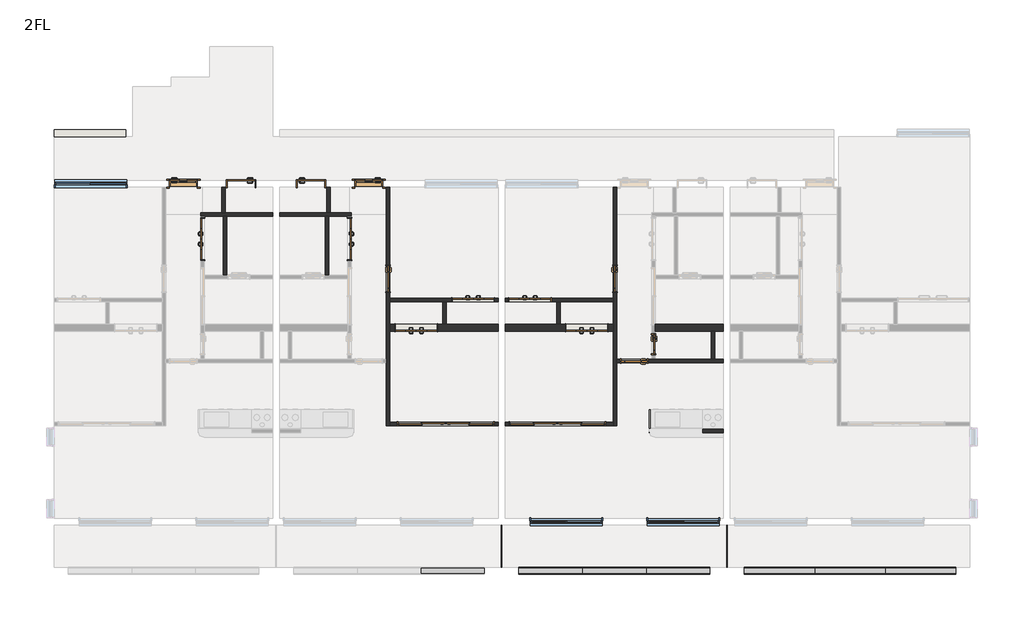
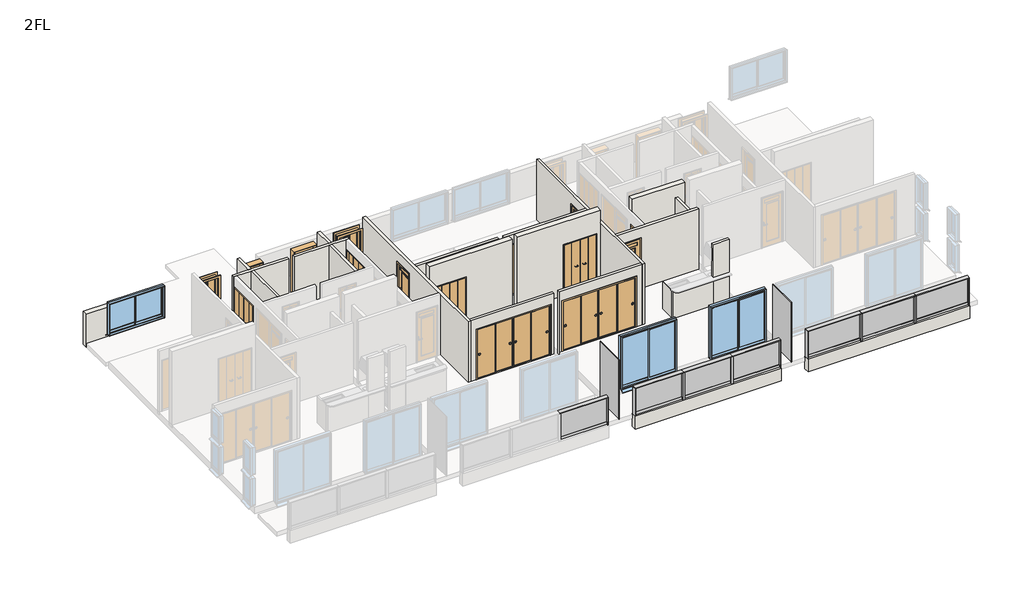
# One storey, part 2 of 3: 25 walls, 16 doors, 16 members, 9 plates, 3 windows.
"""IFC4 building model written with IfcOpenShell, lengths in millimetres."""

from ifc_helpers import new_model, si_unit, frame, origin, place, context, project, spatial, polyline, outline, extrude, faceted_brep, transform, mapped, element, save
from components import door_800x2000_a7d1584b, door_800x2000_010bfebf, w1200h2000_6a144d60, w1200h2000_98cacc9b, w1200h2000_99d19fb3, w1200h2000_ebe1d490, w2800h2000_670b855b, w2800h2000_04aa64cd, w600h2000_7f2747f4, w800h2000_1d97c4d4, w800h2000_13e9f519, w800h2000_ccb03061, w800h2000_0ab7d42c, member_25x150_3f8205e2, member_25x150_f694351b, member_25x150_e95393f9, member_70x150_851c8a9b, plate_9f48129f, plate_365944b3, plate_b830f844, plate_2f85ae4c, plate_cef4847d, window_2000x1200_fc91d1cf, window_2000x2000_f1ff98da

model = new_model("IFC4")

# Units and contexts
model_context = context("Model", 3, world=origin())
ifc_project = project(units=[si_unit("LENGTHUNIT", "METRE", prefix="MILLI")], contexts=[model_context])

# Site, building, storey
site = spatial("IfcSite", under=ifc_project)
building = spatial("IfcBuilding", under=site)
storey = spatial("IfcBuildingStorey", under=building, Name="2FL", Elevation=4000.0)

# Doors
placement = place(None, origin())
door_800x2000_shape = door_800x2000_a7d1584b(model_context)
element("IfcDoor", 1, ObjectType="片開き3 : 800x2000", at=placement, inside=storey, context=model_context, shape_type="MappedRepresentation", body=[
    mapped(door_800x2000_shape, transform((-7378.7187246, -5700.1171638, 4000.0), x_axis=(1.0, 0.0, 0.0), y_axis=(0.0, 1.0, 0.0), z_axis=(0.0, 0.0, 1.0))),
])
door_800x2000_2_shape = door_800x2000_010bfebf(model_context)
element("IfcDoor", 2, ObjectType="片開き3 : 800x2000", at=placement, inside=storey, context=model_context, shape_type="MappedRepresentation", body=[
    mapped(door_800x2000_2_shape, transform((-2078.7187246, -5700.1171638, 4000.0), x_axis=(-1.0, 0.0, 0.0), y_axis=(0.0, -1.0, 0.0), z_axis=(0.0, 0.0, 1.0))),
])
w1200h2000_shape = w1200h2000_6a144d60(model_context)
element("IfcDoor", 3, ObjectType="木製折戸 : w1200h2000", at=placement, inside=storey, context=model_context, shape_type="MappedRepresentation", body=[
    mapped(w1200h2000_shape, transform((-6828.7187246, -7280.1171638, 4100.0), x_axis=(0.0, 1.0, 0.0), y_axis=(-1.0, 0.0, 0.0), z_axis=(0.0, 0.0, 1.0))),
])
element("IfcDoor", 4, ObjectType="木製折戸 : w1200h2000", at=placement, inside=storey, context=model_context, shape_type="MappedRepresentation", body=[
    mapped(w1200h2000_shape, transform((2533.7812754, -9020.1171638, 4100.0), x_axis=(1.0, 0.0, 0.0), y_axis=(0.0, 1.0, 0.0), z_axis=(0.0, 0.0, 1.0))),
])
w1200h2000_2_shape = w1200h2000_98cacc9b(model_context)
element("IfcDoor", 5, ObjectType="木製折戸 : w1200h2000", at=placement, inside=storey, context=model_context, shape_type="MappedRepresentation", body=[
    mapped(w1200h2000_2_shape, transform((4158.7812754, -9820.1171638, 4100.0), x_axis=(-1.0, 0.0, 0.0), y_axis=(0.0, -1.0, 0.0), z_axis=(0.0, 0.0, 1.0))),
])
w1200h2000_3_shape = w1200h2000_99d19fb3(model_context)
element("IfcDoor", 6, ObjectType="木製折戸 : w1200h2000", at=placement, inside=storey, context=model_context, shape_type="MappedRepresentation", body=[
    mapped(w1200h2000_3_shape, transform((908.7812754, -9020.1171638, 4100.0), x_axis=(-1.0, 0.0, 0.0), y_axis=(0.0, -1.0, 0.0), z_axis=(0.0, 0.0, 1.0))),
])
element("IfcDoor", 7, ObjectType="木製折戸 : w1200h2000", at=placement, inside=storey, context=model_context, shape_type="MappedRepresentation", body=[
    mapped(w1200h2000_3_shape, transform((-2628.7187246, -7280.1171638, 4100.0), x_axis=(0.0, 1.0, 0.0), y_axis=(-1.0, 0.0, 0.0), z_axis=(0.0, 0.0, 1.0))),
])
w1200h2000_4_shape = w1200h2000_ebe1d490(model_context)
element("IfcDoor", 8, ObjectType="木製折戸 : w1200h2000", at=placement, inside=storey, context=model_context, shape_type="MappedRepresentation", body=[
    mapped(w1200h2000_4_shape, transform((-716.2187246, -9820.1171638, 4100.0), x_axis=(1.0, 0.0, 0.0), y_axis=(0.0, 1.0, 0.0), z_axis=(0.0, 0.0, 1.0))),
])
w2800h2000_shape = w2800h2000_670b855b(model_context)
element("IfcDoor", 9, ObjectType="引違い 4 枚 2 溝_襖 : w2800h2000", at=placement, inside=storey, context=model_context, shape_type="MappedRepresentation", body=[
    mapped(w2800h2000_shape, transform((3315.7457714, -12570.1171638, 4100.0), x_axis=(-1.0, 0.0, 0.0), y_axis=(0.0, -1.0, 0.0), z_axis=(0.0, 0.0, 1.0))),
])
w2800h2000_2_shape = w2800h2000_04aa64cd(model_context)
element("IfcDoor", 10, ObjectType="引違い 4 枚 2 溝_襖 : w2800h2000", at=placement, inside=storey, context=model_context, shape_type="MappedRepresentation", body=[
    mapped(w2800h2000_2_shape, transform((126.8167793, -12570.1171638, 4100.0), x_axis=(1.0, 0.0, 0.0), y_axis=(0.0, 1.0, 0.0), z_axis=(0.0, 0.0, 1.0))),
])
w600h2000_shape = w600h2000_7f2747f4(model_context)
element("IfcDoor", 11, ObjectType="片開戸CL2058 : w600h2000", at=placement, inside=storey, context=model_context, shape_type="MappedRepresentation", body=[
    mapped(w600h2000_shape, transform((6071.2812754, -10295.1171638, 4100.0), x_axis=(0.0, -1.0, 0.0), y_axis=(1.0, 0.0, 0.0), z_axis=(0.0, 0.0, 1.0))),
])
w800h2000_shape = w800h2000_1d97c4d4(model_context)
element("IfcDoor", 12, ObjectType="片開 : w800h2000", at=placement, inside=storey, context=model_context, shape_type="MappedRepresentation", body=[
    mapped(w800h2000_shape, transform((-5728.7187246, -5700.1171638, 4000.0), x_axis=(-1.0, 0.0, 0.0), y_axis=(0.0, -1.0, 0.0), z_axis=(0.0, 0.0, 1.0))),
])
w800h2000_2_shape = w800h2000_13e9f519(model_context)
element("IfcDoor", 13, ObjectType="片開戸CL2058 : w800h2000", at=placement, inside=storey, context=model_context, shape_type="MappedRepresentation", body=[
    mapped(w800h2000_2_shape, transform((4971.2812754, -8420.1171638, 4100.0), x_axis=(0.0, -1.0, 0.0), y_axis=(1.0, 0.0, 0.0), z_axis=(0.0, 0.0, 1.0))),
])
w800h2000_3_shape = w800h2000_ccb03061(model_context)
element("IfcDoor", 14, ObjectType="片開戸CL2058 : w800h2000", at=placement, inside=storey, context=model_context, shape_type="MappedRepresentation", body=[
    mapped(w800h2000_3_shape, transform((-1528.7187246, -8420.1171638, 4100.0), x_axis=(0.0, -1.0, 0.0), y_axis=(1.0, 0.0, 0.0), z_axis=(0.0, 0.0, 1.0))),
])
element("IfcDoor", 15, ObjectType="片開戸CL2058 : w800h2000", at=placement, inside=storey, context=model_context, shape_type="MappedRepresentation", body=[
    mapped(w800h2000_3_shape, transform((5521.2812754, -10770.1171638, 4100.0), x_axis=(-1.0, 0.0, 0.0), y_axis=(0.0, -1.0, 0.0), z_axis=(0.0, 0.0, 1.0))),
])
w800h2000_4_shape = w800h2000_0ab7d42c(model_context)
element("IfcDoor", 16, ObjectType="片開 : w800h2000", at=placement, inside=storey, context=model_context, shape_type="MappedRepresentation", body=[
    mapped(w800h2000_4_shape, transform((-3728.7187246, -5700.1171638, 4000.0), x_axis=(1.0, 0.0, 0.0), y_axis=(0.0, 1.0, 0.0), z_axis=(0.0, 0.0, 1.0))),
])

# Members
member_25x150_shape = member_25x150_3f8205e2(model_context)
element("IfcMember", 17, ObjectType="長方形のマリオン : 25x150", at=placement, inside=storey, context=model_context, shape_type="MappedRepresentation", body=[
    mapped(member_25x150_shape, transform((1221.2812754, -16770.1171638, 4000.0), x_axis=(1.0, 0.0, 0.0), y_axis=(0.0, -1.0, 0.0), z_axis=(0.0, 0.0, -1.0))),
])
element("IfcMember", 18, ObjectType="長方形のマリオン : 25x150", at=placement, inside=storey, context=model_context, shape_type="MappedRepresentation", body=[
    mapped(member_25x150_shape, transform((7671.2812754, -16770.1171638, 4000.0), x_axis=(1.0, 0.0, 0.0), y_axis=(0.0, -1.0, 0.0), z_axis=(0.0, 0.0, -1.0))),
])
element("IfcMember", 19, ObjectType="長方形のマリオン : 25x150", at=placement, inside=storey, context=model_context, shape_type="MappedRepresentation", body=[
    mapped(member_25x150_shape, transform((14721.2812754, -16770.1171638, 4000.0), x_axis=(1.0, 0.0, 0.0), y_axis=(0.0, -1.0, 0.0), z_axis=(0.0, 0.0, -1.0))),
])
element("IfcMember", 20, ObjectType="長方形のマリオン : 25x150", at=placement, inside=storey, context=model_context, shape_type="MappedRepresentation", body=[
    mapped(member_25x150_shape, transform((2221.2812754, -16770.1171638, 5075.0), x_axis=(-1.0, 0.0, 0.0), y_axis=(0.0, -1.0, 0.0), z_axis=(0.0, 0.0, 1.0))),
])
element("IfcMember", 21, ObjectType="長方形のマリオン : 25x150", at=placement, inside=storey, context=model_context, shape_type="MappedRepresentation", body=[
    mapped(member_25x150_shape, transform((8671.2812754, -16770.1171638, 5075.0), x_axis=(-1.0, 0.0, 0.0), y_axis=(0.0, -1.0, 0.0), z_axis=(0.0, 0.0, 1.0))),
])
member_25x150_2_shape = member_25x150_f694351b(model_context)
element("IfcMember", 22, ObjectType="長方形のマリオン : 25x150", at=placement, inside=storey, context=model_context, shape_type="MappedRepresentation", body=[
    mapped(member_25x150_2_shape, transform((1221.2812754, -16770.1171638, 5100.0), x_axis=(0.0, 0.0, 1.0), y_axis=(0.0, -1.0, 0.0), z_axis=(1.0, 0.0, 0.0))),
])
element("IfcMember", 23, ObjectType="長方形のマリオン : 25x150", at=placement, inside=storey, context=model_context, shape_type="MappedRepresentation", body=[
    mapped(member_25x150_2_shape, transform((7671.2812754, -16770.1171638, 5100.0), x_axis=(0.0, 0.0, 1.0), y_axis=(0.0, -1.0, 0.0), z_axis=(1.0, 0.0, 0.0))),
])
element("IfcMember", 24, ObjectType="長方形のマリオン : 25x150", at=placement, inside=storey, context=model_context, shape_type="MappedRepresentation", body=[
    mapped(member_25x150_2_shape, transform((4037.947942, -16770.1171638, 5100.0), x_axis=(0.0, 0.0, 1.0), y_axis=(0.0, -1.0, 0.0), z_axis=(1.0, 0.0, 0.0))),
])
element("IfcMember", 25, ObjectType="長方形のマリオン : 25x150", at=placement, inside=storey, context=model_context, shape_type="MappedRepresentation", body=[
    mapped(member_25x150_2_shape, transform((5854.6146087, -16770.1171638, 5100.0), x_axis=(0.0, 0.0, 1.0), y_axis=(0.0, -1.0, 0.0), z_axis=(1.0, 0.0, 0.0))),
])
member_25x150_3_shape = member_25x150_e95393f9(model_context)
element("IfcMember", 26, ObjectType="長方形のマリオン : 25x150", at=placement, inside=storey, context=model_context, shape_type="MappedRepresentation", body=[
    mapped(member_25x150_3_shape, transform((14721.2812754, -16770.1171638, 5100.0), x_axis=(0.0, 0.0, 1.0), y_axis=(0.0, -1.0, 0.0), z_axis=(1.0, 0.0, 0.0))),
])
element("IfcMember", 27, ObjectType="長方形のマリオン : 25x150", at=placement, inside=storey, context=model_context, shape_type="MappedRepresentation", body=[
    mapped(member_25x150_3_shape, transform((10687.947942, -16770.1171638, 5100.0), x_axis=(0.0, 0.0, 1.0), y_axis=(0.0, -1.0, 0.0), z_axis=(1.0, 0.0, 0.0))),
])
element("IfcMember", 28, ObjectType="長方形のマリオン : 25x150", at=placement, inside=storey, context=model_context, shape_type="MappedRepresentation", body=[
    mapped(member_25x150_3_shape, transform((12704.6146087, -16770.1171638, 5100.0), x_axis=(0.0, 0.0, 1.0), y_axis=(0.0, -1.0, 0.0), z_axis=(1.0, 0.0, 0.0))),
])
member_70x150_shape = member_70x150_851c8a9b(model_context)
element("IfcMember", 29, ObjectType="長方形のマリオン : 70x150", at=placement, inside=storey, context=model_context, shape_type="MappedRepresentation", body=[
    mapped(member_70x150_shape, transform((4037.947942, -16770.1171638, 4000.0), x_axis=(1.0, 0.0, 0.0), y_axis=(0.0, -1.0, 0.0), z_axis=(0.0, 0.0, -1.0))),
])
element("IfcMember", 30, ObjectType="長方形のマリオン : 70x150", at=placement, inside=storey, context=model_context, shape_type="MappedRepresentation", body=[
    mapped(member_70x150_shape, transform((5854.6146087, -16770.1171638, 4000.0), x_axis=(1.0, 0.0, 0.0), y_axis=(0.0, -1.0, 0.0), z_axis=(0.0, 0.0, -1.0))),
])
element("IfcMember", 31, ObjectType="長方形のマリオン : 70x150", at=placement, inside=storey, context=model_context, shape_type="MappedRepresentation", body=[
    mapped(member_70x150_shape, transform((10687.947942, -16770.1171638, 4000.0), x_axis=(1.0, 0.0, 0.0), y_axis=(0.0, -1.0, 0.0), z_axis=(0.0, 0.0, -1.0))),
])
element("IfcMember", 32, ObjectType="長方形のマリオン : 70x150", at=placement, inside=storey, context=model_context, shape_type="MappedRepresentation", body=[
    mapped(member_70x150_shape, transform((12704.6146087, -16770.1171638, 4000.0), x_axis=(1.0, 0.0, 0.0), y_axis=(0.0, -1.0, 0.0), z_axis=(0.0, 0.0, -1.0))),
])

# Plates
plate_shape = plate_9f48129f(model_context)
element("IfcPlate", 33, ObjectType="r パネル FIX 下框付 : 框 H100", at=placement, inside=storey, context=model_context, shape_type="MappedRepresentation", body=[
    mapped(plate_shape, transform((317.947942, -16770.1171638, 4000.0), x_axis=(1.0, 0.0, 0.0), y_axis=(0.0, 1.0, 0.0), z_axis=(0.0, 0.0, 1.0))),
])
element("IfcPlate", 34, ObjectType="r パネル FIX 下框付 : 框 H100", at=placement, inside=storey, context=model_context, shape_type="MappedRepresentation", body=[
    mapped(plate_shape, transform((3124.6146087, -16770.1171638, 4000.0), x_axis=(1.0, 0.0, 0.0), y_axis=(0.0, 1.0, 0.0), z_axis=(0.0, 0.0, 1.0))),
])
element("IfcPlate", 35, ObjectType="r パネル FIX 下框付 : 框 H100", at=placement, inside=storey, context=model_context, shape_type="MappedRepresentation", body=[
    mapped(plate_shape, transform((6767.947942, -16770.1171638, 4000.0), x_axis=(1.0, 0.0, 0.0), y_axis=(0.0, 1.0, 0.0), z_axis=(0.0, 0.0, 1.0))),
])
plate_2_shape = plate_365944b3(model_context)
element("IfcPlate", 36, ObjectType="r パネル FIX 下框付 : 框 H100", at=placement, inside=storey, context=model_context, shape_type="MappedRepresentation", body=[
    mapped(plate_2_shape, transform((4946.2812754, -16770.1171638, 4000.0), x_axis=(1.0, 0.0, 0.0), y_axis=(0.0, 1.0, 0.0), z_axis=(0.0, 0.0, 1.0))),
])
plate_3_shape = plate_b830f844(model_context)
element("IfcPlate", 37, ObjectType="r パネル FIX 下框付 : 框 H100", at=placement, inside=storey, context=model_context, shape_type="MappedRepresentation", body=[
    mapped(plate_3_shape, transform((9674.6146087, -16770.1171638, 4000.0), x_axis=(1.0, 0.0, 0.0), y_axis=(0.0, 1.0, 0.0), z_axis=(0.0, 0.0, 1.0))),
])
element("IfcPlate", 38, ObjectType="r パネル FIX 下框付 : 框 H100", at=placement, inside=storey, context=model_context, shape_type="MappedRepresentation", body=[
    mapped(plate_3_shape, transform((13717.947942, -16770.1171638, 4000.0), x_axis=(1.0, 0.0, 0.0), y_axis=(0.0, 1.0, 0.0), z_axis=(0.0, 0.0, 1.0))),
])
plate_4_shape = plate_2f85ae4c(model_context)
element("IfcPlate", 39, ObjectType="r パネル FIX 下框付 : 框 H100", at=placement, inside=storey, context=model_context, shape_type="MappedRepresentation", body=[
    mapped(plate_4_shape, transform((11696.2812754, -16770.1171638, 4000.0), x_axis=(1.0, 0.0, 0.0), y_axis=(0.0, 1.0, 0.0), z_axis=(0.0, 0.0, 1.0))),
])
plate_5_shape = plate_cef4847d(model_context)
element("IfcPlate", 40, ObjectType="システム パネル : 標準", at=placement, inside=storey, context=model_context, shape_type="MappedRepresentation", body=[
    mapped(plate_5_shape, transform((1721.2812754, -16070.1171638, 3950.0), x_axis=(0.0, -1.0, 0.0), y_axis=(1.0, 0.0, 0.0), z_axis=(0.0, 0.0, 1.0))),
])
element("IfcPlate", 41, ObjectType="システム パネル : 標準", at=placement, inside=storey, context=model_context, shape_type="MappedRepresentation", body=[
    mapped(plate_5_shape, transform((8171.2812754, -16070.1171638, 3950.0), x_axis=(0.0, -1.0, 0.0), y_axis=(1.0, 0.0, 0.0), z_axis=(0.0, 0.0, 1.0))),
])

# Walls
element("IfcWall", 42, ObjectType="(R)RC200", at=placement, inside=storey, context=model_context, shape_type="Brep", body=[
    faceted_brep([(1621.2812754, -9720.1171638, 4000.0), (146.2812754, -9720.1171638, 4000.0), (46.2812754, -9720.1171638, 4000.0), (-1478.7187246, -9720.1171638, 4000.0), (-1478.7187246, -9720.1171638, 7000.0), (1621.2812754, -9720.1171638, 7000.0), (-96.2187246, -9720.1171638, 6120.0), (-1336.2187246, -9720.1171638, 6120.0), (-1336.2187246, -9720.1171638, 4100.0), (-96.2187246, -9720.1171638, 4100.0), (1621.2812754, -9920.1171638, 4000.0), (1621.2812754, -9920.1171638, 7000.0), (-1478.7187246, -9920.1171638, 7000.0), (-1478.7187246, -9920.1171638, 4000.0), (-96.2187246, -9920.1171638, 6120.0), (-96.2187246, -9920.1171638, 4100.0), (-1336.2187246, -9920.1171638, 4100.0), (-1336.2187246, -9920.1171638, 6120.0)], [[[0, 1, 2, 3, 4, 5], [6, 7, 8, 9]], [[10, 11, 12, 13], [14, 15, 16, 17]], [[3, 2, 1, 0, 10, 13]], [[5, 4, 12, 11]], [[4, 3, 13, 12]], [[15, 14, 6, 9]], [[16, 15, 9, 8]], [[17, 16, 8, 7]], [[14, 17, 7, 6]], [[0, 5, 11, 10]]]),
])
element("IfcWall", 43, ObjectType="(R)RC200", at=placement, inside=storey, context=model_context, shape_type="Brep", body=[
    faceted_brep([(1821.2812754, -9920.1171638, 4000.0), (4921.2812754, -9920.1171638, 4000.0), (4921.2812754, -9920.1171638, 7000.0), (1821.2812754, -9920.1171638, 7000.0), (3538.7812754, -9920.1171638, 6120.0), (4778.7812754, -9920.1171638, 6120.0), (4778.7812754, -9920.1171638, 4100.0), (3538.7812754, -9920.1171638, 4100.0), (1821.2812754, -9720.1171638, 4000.0), (1821.2812754, -9720.1171638, 7000.0), (4921.2812754, -9720.1171638, 7000.0), (4921.2812754, -9720.1171638, 4000.0), (3396.2812754, -9720.1171638, 4000.0), (3296.2812754, -9720.1171638, 4000.0), (3538.7812754, -9720.1171638, 6120.0), (3538.7812754, -9720.1171638, 4100.0), (4778.7812754, -9720.1171638, 4100.0), (4778.7812754, -9720.1171638, 6120.0)], [[[0, 1, 2, 3], [4, 5, 6, 7]], [[8, 9, 10, 11, 12, 13], [14, 15, 16, 17]], [[1, 0, 8, 13, 12, 11]], [[3, 2, 10, 9]], [[2, 1, 11, 10]], [[15, 14, 4, 7]], [[16, 15, 7, 6]], [[17, 16, 6, 5]], [[14, 17, 5, 4]], [[0, 3, 9, 8]]]),
])
element("IfcWall", 44, ObjectType="(R)RC200", at=placement, inside=storey, context=model_context, shape_type="Brep", body=[
    faceted_brep([(6121.2812754, -9920.1171638, 4000.0), (7721.2812754, -9920.1171638, 4000.0), (7821.2812754, -9920.1171638, 4000.0), (8071.2812754, -9920.1171638, 4000.0), (8071.2812754, -9920.1171638, 7000.0), (6121.2812754, -9920.1171638, 7000.0), (6121.2812754, -9720.1171638, 4000.0), (6121.2812754, -9720.1171638, 7000.0), (8071.2812754, -9720.1171638, 7000.0), (8071.2812754, -9720.1171638, 4000.0)], [[[0, 1, 2, 3, 4, 5]], [[6, 7, 8, 9]], [[3, 2, 1, 0, 6, 9]], [[5, 4, 8, 7]], [[0, 5, 7, 6]], [[4, 3, 9, 8]]]),
])
element("IfcWall", 45, ObjectType="(R)RC200", at=placement, inside=storey, context=model_context, shape_type="SweptSolid", body=[
    extrude(outline(polyline([(-9028.7187246, -4350.1171638), (-11078.7187246, -4350.1171638), (-11078.7187246, -4150.1171638), (-9028.7187246, -4150.1171638), (-9028.7187246, -4350.1171638)])), frame((0.0, 0.0, 3800.0), z_axis=(0.0, 0.0, 1.0), x_axis=(1.0, 0.0, 0.0)), (0.0, 0.0, 1.0), 1300.0),
])
element("IfcWall", 46, ObjectType="(R)RC200", at=placement, inside=storey, context=model_context, shape_type="SweptSolid", body=[
    extrude(outline(polyline([(7671.2812754, -16870.1171638), (2221.2812754, -16870.1171638), (2221.2812754, -16670.1171638), (7671.2812754, -16670.1171638), (7671.2812754, -16870.1171638)])), frame((0.0, 0.0, 3500.0), z_axis=(0.0, 0.0, 1.0), x_axis=(1.0, 0.0, 0.0)), (0.0, 0.0, 1.0), 500.0),
])
element("IfcWall", 47, ObjectType="(R)RC200", at=placement, inside=storey, context=model_context, shape_type="SweptSolid", body=[
    extrude(outline(polyline([(14721.2812754, -16870.1171638), (8671.2812754, -16870.1171638), (8671.2812754, -16670.1171638), (14721.2812754, -16670.1171638), (14721.2812754, -16870.1171638)])), frame((0.0, 0.0, 3500.0), z_axis=(0.0, 0.0, 1.0), x_axis=(1.0, 0.0, 0.0)), (0.0, 0.0, 1.0), 500.0),
])
element("IfcWall", 48, ObjectType="(F)30", at=placement, inside=storey, context=model_context, shape_type="SweptSolid", body=[
    extrude(outline(polyline([(5948.8875596, -12720.1171638), (5948.8875596, -12165.1171638), (5978.8875596, -12165.1171638), (5978.8875596, -12720.1171638), (5948.8875596, -12720.1171638)])), frame((0.0, 0.0, 4100.0), z_axis=(0.0, 0.0, 1.0), x_axis=(1.0, 0.0, 0.0)), (0.0, 0.0, 1.0), 1060.0),
])
element("IfcWall", 49, ObjectType="(L1)LGS100", at=placement, inside=storey, context=model_context, shape_type="Brep", body=[
    faceted_brep([(-6878.7187246, -6630.1171638, 4000.0), (-6778.7187246, -6630.1171638, 4000.0), (-6238.7187246, -6630.1171638, 4000.0), (-6138.7187246, -6630.1171638, 4000.0), (-4828.7187246, -6630.1171638, 4000.0), (-4828.7187246, -6630.1171638, 6500.0), (-6138.7187246, -6630.1171638, 6500.0), (-6238.7187246, -6630.1171638, 6500.0), (-6778.7187246, -6630.1171638, 6500.0), (-6878.7187246, -6630.1171638, 6500.0), (-6878.7187246, -6530.1171638, 4000.0), (-6878.7187246, -6530.1171638, 6500.0), (-6278.7187246, -6530.1171638, 6500.0), (-6178.7187246, -6530.1171638, 6500.0), (-4828.7187246, -6530.1171638, 6500.0), (-4828.7187246, -6530.1171638, 4000.0), (-6178.7187246, -6530.1171638, 4000.0), (-6278.7187246, -6530.1171638, 4000.0)], [[[0, 1, 2, 3, 4, 5, 6, 7, 8, 9]], [[10, 11, 12, 13, 14, 15, 16, 17]], [[4, 3, 2, 1, 0, 10, 17, 16, 15]], [[9, 8, 7, 6, 5, 14, 13, 12, 11]], [[0, 9, 11, 10]], [[5, 4, 15, 14]]]),
])
element("IfcWall", 50, ObjectType="(L1)LGS100", at=placement, inside=storey, context=model_context, shape_type="SweptSolid", body=[
    extrude(outline(polyline([(-6178.7187246, -5800.1171638), (-6178.7187246, -6530.1171638), (-6278.7187246, -6530.1171638), (-6278.7187246, -5800.1171638), (-6178.7187246, -5800.1171638)])), frame((0.0, 0.0, 4000.0), z_axis=(0.0, 0.0, 1.0), x_axis=(1.0, 0.0, 0.0)), (0.0, 0.0, 1.0), 2500.0),
])
element("IfcWall", 51, ObjectType="(L1)LGS100", at=placement, inside=storey, context=model_context, shape_type="SweptSolid", body=[
    extrude(outline(polyline([(-6138.7187246, -6630.1171638), (-6138.7187246, -8320.1171638), (-6238.7187246, -8320.1171638), (-6238.7187246, -6630.1171638), (-6138.7187246, -6630.1171638)])), frame((0.0, 0.0, 4000.0), z_axis=(0.0, 0.0, 1.0), x_axis=(1.0, 0.0, 0.0)), (0.0, 0.0, 1.0), 2500.0),
])
element("IfcWall", 52, ObjectType="(L1)LGS100", at=placement, inside=storey, context=model_context, shape_type="Brep", body=[
    faceted_brep([(1621.2812754, -8970.1171638, 4000.0), (-1478.7187246, -8970.1171638, 4000.0), (-1478.7187246, -8970.1171638, 6500.0), (1621.2812754, -8970.1171638, 6500.0), (288.7812754, -8970.1171638, 6120.0), (288.7812754, -8970.1171638, 4100.0), (1528.7812754, -8970.1171638, 4100.0), (1528.7812754, -8970.1171638, 6120.0), (-1478.7187246, -9070.1171638, 4000.0), (46.2812754, -9070.1171638, 4000.0), (146.2812754, -9070.1171638, 4000.0), (1621.2812754, -9070.1171638, 4000.0), (1621.2812754, -9070.1171638, 6500.0), (146.2812754, -9070.1171638, 6500.0), (46.2812754, -9070.1171638, 6500.0), (-1478.7187246, -9070.1171638, 6500.0), (288.7812754, -9070.1171638, 4100.0), (288.7812754, -9070.1171638, 6120.0), (1528.7812754, -9070.1171638, 6120.0), (1528.7812754, -9070.1171638, 4100.0)], [[[0, 1, 2, 3], [4, 5, 6, 7]], [[8, 9, 10, 11, 12, 13, 14, 15], [16, 17, 18, 19]], [[1, 0, 11, 10, 9, 8]], [[3, 2, 15, 14, 13, 12]], [[2, 1, 8, 15]], [[4, 17, 16, 5]], [[5, 16, 19, 6]], [[17, 4, 7, 18]], [[18, 7, 6, 19]], [[0, 3, 12, 11]]]),
])
element("IfcWall", 53, ObjectType="(L1)LGS100", at=placement, inside=storey, context=model_context, shape_type="SweptSolid", body=[
    extrude(outline(polyline([(146.2812754, -9070.1171638), (146.2812754, -9720.1171638), (46.2812754, -9720.1171638), (46.2812754, -9070.1171638), (146.2812754, -9070.1171638)])), frame((0.0, 0.0, 4000.0), z_axis=(0.0, 0.0, 1.0), x_axis=(1.0, 0.0, 0.0)), (0.0, 0.0, 1.0), 2500.0),
])
element("IfcWall", 54, ObjectType="(L1)LGS100", at=placement, inside=storey, context=model_context, shape_type="Brep", body=[
    faceted_brep([(-1478.7187246, -12620.1171638, 4000.0), (-1478.7187246, -12520.1171638, 4000.0), (-1478.7187246, -9920.1171638, 4000.0), (-1478.7187246, -9720.1171638, 4000.0), (-1478.7187246, -9070.1171638, 4000.0), (-1478.7187246, -8970.1171638, 4000.0), (-1478.7187246, -5800.1171638, 4000.0), (-1478.7187246, -5800.1171638, 6500.0), (-1478.7187246, -8970.1171638, 6500.0), (-1478.7187246, -9070.1171638, 6500.0), (-1478.7187246, -12520.1171638, 6500.0), (-1478.7187246, -12620.1171638, 6500.0), (-1478.7187246, -8820.1171638, 4100.0), (-1478.7187246, -8820.1171638, 6100.0), (-1478.7187246, -8020.1171638, 6100.0), (-1478.7187246, -8020.1171638, 4100.0), (-1578.7187246, -12620.1171638, 4000.0), (-1578.7187246, -12620.1171638, 6500.0), (-1578.7187246, -10820.1171638, 6500.0), (-1578.7187246, -10720.1171638, 6500.0), (-1578.7187246, -5800.1171638, 6500.0), (-1578.7187246, -5800.1171638, 4000.0), (-1578.7187246, -10720.1171638, 4000.0), (-1578.7187246, -10820.1171638, 4000.0), (-1578.7187246, -8820.1171638, 4100.0), (-1578.7187246, -8020.1171638, 4100.0), (-1578.7187246, -8020.1171638, 6100.0), (-1578.7187246, -8820.1171638, 6100.0)], [[[0, 1, 2, 3, 4, 5, 6, 7, 8, 9, 10, 11], [12, 13, 14, 15]], [[16, 17, 18, 19, 20, 21, 22, 23], [24, 25, 26, 27]], [[6, 5, 4, 3, 2, 1, 0, 16, 23, 22, 21]], [[11, 10, 9, 8, 7, 20, 19, 18, 17]], [[0, 11, 17, 16]], [[13, 12, 24, 27]], [[14, 13, 27, 26]], [[15, 14, 26, 25]], [[12, 15, 25, 24]], [[7, 6, 21, 20]]]),
])
element("IfcWall", 55, ObjectType="(L1)LGS100", at=placement, inside=storey, context=model_context, shape_type="Brep", body=[
    faceted_brep([(-2578.7187246, -6530.1171638, 4000.0), (-3178.7187246, -6530.1171638, 4000.0), (-3278.7187246, -6530.1171638, 4000.0), (-4628.7187246, -6530.1171638, 4000.0), (-4628.7187246, -6530.1171638, 6500.0), (-3278.7187246, -6530.1171638, 6500.0), (-3178.7187246, -6530.1171638, 6500.0), (-2578.7187246, -6530.1171638, 6500.0), (-2578.7187246, -6630.1171638, 4000.0), (-2578.7187246, -6630.1171638, 6500.0), (-2678.7187246, -6630.1171638, 6500.0), (-3218.7187246, -6630.1171638, 6500.0), (-3318.7187246, -6630.1171638, 6500.0), (-4628.7187246, -6630.1171638, 6500.0), (-4628.7187246, -6630.1171638, 4000.0), (-3318.7187246, -6630.1171638, 4000.0), (-3218.7187246, -6630.1171638, 4000.0), (-2678.7187246, -6630.1171638, 4000.0)], [[[0, 1, 2, 3, 4, 5, 6, 7]], [[8, 9, 10, 11, 12, 13, 14, 15, 16, 17]], [[3, 2, 1, 0, 8, 17, 16, 15, 14]], [[7, 6, 5, 4, 13, 12, 11, 10, 9]], [[0, 7, 9, 8]], [[4, 3, 14, 13]]]),
])
element("IfcWall", 56, ObjectType="(L1)LGS100", at=placement, inside=storey, context=model_context, shape_type="SweptSolid", body=[
    extrude(outline(polyline([(-3178.7187246, -5800.1171638), (-3178.7187246, -6530.1171638), (-3278.7187246, -6530.1171638), (-3278.7187246, -5800.1171638), (-3178.7187246, -5800.1171638)])), frame((0.0, 0.0, 4000.0), z_axis=(0.0, 0.0, 1.0), x_axis=(1.0, 0.0, 0.0)), (0.0, 0.0, 1.0), 2500.0),
])
element("IfcWall", 57, ObjectType="(L1)LGS100", at=placement, inside=storey, context=model_context, shape_type="SweptSolid", body=[
    extrude(outline(polyline([(-3218.7187246, -6630.1171638), (-3218.7187246, -8320.1171638), (-3318.7187246, -8320.1171638), (-3318.7187246, -6630.1171638), (-3218.7187246, -6630.1171638)])), frame((0.0, 0.0, 4000.0), z_axis=(0.0, 0.0, 1.0), x_axis=(1.0, 0.0, 0.0)), (0.0, 0.0, 1.0), 2500.0),
])
element("IfcWall", 58, ObjectType="(L1)LGS100", at=placement, inside=storey, context=model_context, shape_type="SweptSolid", body=[
    extrude(outline(polyline([(4000.0, 1621.2812754), (6500.0, 1621.2812754), (6500.0, -1478.7187246), (4000.0, -1478.7187246), (4000.0, 1621.2812754)]), holes=[polyline([(6100.0, 1521.2812754), (4100.0, 1521.2812754), (4100.0, -1278.7187246), (6100.0, -1278.7187246), (6100.0, 1521.2812754)])]), frame((0.0, -12620.1171638, 0.0), z_axis=(0.0, 1.0, 0.0), x_axis=(0.0, 0.0, 1.0)), (0.0, 0.0, 1.0), 100.0),
])
element("IfcWall", 59, ObjectType="(L1)LGS100", at=placement, inside=storey, context=model_context, shape_type="Brep", body=[
    faceted_brep([(1821.2812754, -9070.1171638, 4000.0), (3296.2812754, -9070.1171638, 4000.0), (3396.2812754, -9070.1171638, 4000.0), (4921.2812754, -9070.1171638, 4000.0), (4921.2812754, -9070.1171638, 6500.0), (3396.2812754, -9070.1171638, 6500.0), (3296.2812754, -9070.1171638, 6500.0), (1821.2812754, -9070.1171638, 6500.0), (3153.7812754, -9070.1171638, 6120.0), (3153.7812754, -9070.1171638, 4100.0), (1913.7812754, -9070.1171638, 4100.0), (1913.7812754, -9070.1171638, 6120.0), (4921.2812754, -8970.1171638, 4000.0), (1821.2812754, -8970.1171638, 4000.0), (1821.2812754, -8970.1171638, 6500.0), (4921.2812754, -8970.1171638, 6500.0), (3153.7812754, -8970.1171638, 4100.0), (3153.7812754, -8970.1171638, 6120.0), (1913.7812754, -8970.1171638, 6120.0), (1913.7812754, -8970.1171638, 4100.0)], [[[0, 1, 2, 3, 4, 5, 6, 7], [8, 9, 10, 11]], [[12, 13, 14, 15], [16, 17, 18, 19]], [[3, 2, 1, 0, 13, 12]], [[7, 6, 5, 4, 15, 14]], [[4, 3, 12, 15]], [[8, 17, 16, 9]], [[9, 16, 19, 10]], [[17, 8, 11, 18]], [[18, 11, 10, 19]], [[0, 7, 14, 13]]]),
])
element("IfcWall", 60, ObjectType="(L1)LGS100", at=placement, inside=storey, context=model_context, shape_type="SweptSolid", body=[
    extrude(outline(polyline([(3396.2812754, -9070.1171638), (3396.2812754, -9720.1171638), (3296.2812754, -9720.1171638), (3296.2812754, -9070.1171638), (3396.2812754, -9070.1171638)])), frame((0.0, 0.0, 4000.0), z_axis=(0.0, 0.0, 1.0), x_axis=(1.0, 0.0, 0.0)), (0.0, 0.0, 1.0), 2500.0),
])
element("IfcWall", 61, ObjectType="(L1)LGS100", at=placement, inside=storey, context=model_context, shape_type="Brep", body=[
    faceted_brep([(5021.2812754, -12620.1171638, 4000.0), (5021.2812754, -10820.1171638, 4000.0), (5021.2812754, -10720.1171638, 4000.0), (5021.2812754, -5800.1171638, 4000.0), (5021.2812754, -5800.1171638, 6500.0), (5021.2812754, -10720.1171638, 6500.0), (5021.2812754, -10820.1171638, 6500.0), (5021.2812754, -12620.1171638, 6500.0), (5021.2812754, -8820.1171638, 4100.0), (5021.2812754, -8820.1171638, 6100.0), (5021.2812754, -8020.1171638, 6100.0), (5021.2812754, -8020.1171638, 4100.0), (4921.2812754, -12620.1171638, 4000.0), (4921.2812754, -12620.1171638, 6500.0), (4921.2812754, -12520.1171638, 6500.0), (4921.2812754, -9070.1171638, 6500.0), (4921.2812754, -8970.1171638, 6500.0), (4921.2812754, -5800.1171638, 6500.0), (4921.2812754, -5800.1171638, 4000.0), (4921.2812754, -8970.1171638, 4000.0), (4921.2812754, -9070.1171638, 4000.0), (4921.2812754, -9720.1171638, 4000.0), (4921.2812754, -9920.1171638, 4000.0), (4921.2812754, -12520.1171638, 4000.0), (4921.2812754, -8820.1171638, 4100.0), (4921.2812754, -8020.1171638, 4100.0), (4921.2812754, -8020.1171638, 6100.0), (4921.2812754, -8820.1171638, 6100.0)], [[[0, 1, 2, 3, 4, 5, 6, 7], [8, 9, 10, 11]], [[12, 13, 14, 15, 16, 17, 18, 19, 20, 21, 22, 23], [24, 25, 26, 27]], [[3, 2, 1, 0, 12, 23, 22, 21, 20, 19, 18]], [[7, 6, 5, 4, 17, 16, 15, 14, 13]], [[0, 7, 13, 12]], [[9, 8, 24, 27]], [[10, 9, 27, 26]], [[11, 10, 26, 25]], [[8, 11, 25, 24]], [[4, 3, 18, 17]]]),
])
element("IfcWall", 62, ObjectType="(L1)LGS100", at=placement, inside=storey, context=model_context, shape_type="SweptSolid", body=[
    extrude(outline(polyline([(7821.2812754, -9920.1171638), (7821.2812754, -10720.1171638), (7721.2812754, -10720.1171638), (7721.2812754, -9920.1171638), (7821.2812754, -9920.1171638)])), frame((0.0, 0.0, 4000.0), z_axis=(0.0, 0.0, 1.0), x_axis=(1.0, 0.0, 0.0)), (0.0, 0.0, 1.0), 2500.0),
])
element("IfcWall", 63, ObjectType="(L1)LGS100", at=placement, inside=storey, context=model_context, shape_type="Brep", body=[
    faceted_brep([(5021.2812754, -10820.1171638, 4000.0), (8071.2812754, -10820.1171638, 4000.0), (8071.2812754, -10820.1171638, 6500.0), (5021.2812754, -10820.1171638, 6500.0), (5121.2812754, -10820.1171638, 4100.0), (5121.2812754, -10820.1171638, 6100.0), (5921.2812754, -10820.1171638, 6100.0), (5921.2812754, -10820.1171638, 4100.0), (8071.2812754, -10720.1171638, 4000.0), (7821.2812754, -10720.1171638, 4000.0), (7721.2812754, -10720.1171638, 4000.0), (6121.2812754, -10720.1171638, 4000.0), (6021.2812754, -10720.1171638, 4000.0), (5021.2812754, -10720.1171638, 4000.0), (5021.2812754, -10720.1171638, 6500.0), (6021.2812754, -10720.1171638, 6500.0), (6121.2812754, -10720.1171638, 6500.0), (7721.2812754, -10720.1171638, 6500.0), (7821.2812754, -10720.1171638, 6500.0), (8071.2812754, -10720.1171638, 6500.0), (5121.2812754, -10720.1171638, 6100.0), (5121.2812754, -10720.1171638, 4100.0), (5921.2812754, -10720.1171638, 4100.0), (5921.2812754, -10720.1171638, 6100.0)], [[[0, 1, 2, 3], [4, 5, 6, 7]], [[8, 9, 10, 11, 12, 13, 14, 15, 16, 17, 18, 19], [20, 21, 22, 23]], [[1, 0, 13, 12, 11, 10, 9, 8]], [[3, 2, 19, 18, 17, 16, 15, 14]], [[0, 3, 14, 13]], [[4, 21, 20, 5]], [[5, 20, 23, 6]], [[6, 23, 22, 7]], [[21, 4, 7, 22]], [[2, 1, 8, 19]]]),
])
element("IfcWall", 64, ObjectType="(L1)LGS100", at=placement, inside=storey, context=model_context, shape_type="SweptSolid", body=[
    extrude(outline(polyline([(4000.0, 1821.2812754), (4000.0, 4921.2812754), (6500.0, 4921.2812754), (6500.0, 1821.2812754), (4000.0, 1821.2812754)]), holes=[polyline([(6100.0, 1921.2812754), (6100.0, 4721.2812754), (4100.0, 4721.2812754), (4100.0, 1921.2812754), (6100.0, 1921.2812754)])]), frame((0.0, -12620.1171638, 0.0), z_axis=(0.0, 1.0, 0.0), x_axis=(0.0, 0.0, 1.0)), (0.0, 0.0, 1.0), 100.0),
])
element("IfcWall", 65, ObjectType="(L1)LGS100", at=placement, inside=storey, context=model_context, shape_type="Brep", body=[
    faceted_brep([(8071.2812754, -12720.1171638, 4000.0), (7471.2812754, -12720.1171638, 4000.0), (7471.2812754, -12720.1171638, 5160.0), (7471.2812754, -12720.1171638, 6500.0), (8071.2812754, -12720.1171638, 6500.0), (8071.2812754, -12820.1171638, 4000.0), (8071.2812754, -12820.1171638, 6500.0), (7471.2812754, -12820.1171638, 6500.0), (7471.2812754, -12820.1171638, 5160.0), (7471.2812754, -12820.1171638, 4000.0)], [[[0, 1, 2, 3, 4]], [[5, 6, 7, 8, 9]], [[1, 0, 5, 9]], [[3, 2, 1, 9, 8, 7]], [[4, 3, 7, 6]], [[0, 4, 6, 5]]]),
])
element("IfcWall", 66, ObjectType="(L1)LGS100", at=placement, inside=storey, context=model_context, shape_type="Brep", body=[
    faceted_brep([(5948.8875596, -12820.1171638, 4000.0), (7471.2812754, -12820.1171638, 4000.0), (7471.2812754, -12820.1171638, 5160.0), (5948.8875596, -12820.1171638, 5160.0), (5948.8875596, -12720.1171638, 4000.0), (5948.8875596, -12720.1171638, 4100.0), (5948.8875596, -12720.1171638, 5160.0), (5978.8875596, -12720.1171638, 5160.0), (7471.2812754, -12720.1171638, 5160.0), (7471.2812754, -12720.1171638, 4000.0)], [[[0, 1, 2, 3]], [[4, 5, 6, 7, 8, 9]], [[1, 0, 4, 9]], [[2, 1, 9, 8]], [[3, 2, 8, 7, 6]], [[0, 3, 6, 5, 4]]]),
])

# Windows
window_2000x1200_shape = window_2000x1200_fc91d1cf(model_context)
element("IfcWindow", 67, ObjectType="鋼製_一般枠_引違い-二枚 : 2000x1200", at=placement, inside=storey, context=model_context, shape_type="MappedRepresentation", body=[
    mapped(window_2000x1200_shape, transform((-10028.7187246, -5700.1171638, 4250.0), x_axis=(1.0, 0.0, 0.0), y_axis=(0.0, 1.0, 0.0), z_axis=(0.0, 0.0, 1.0))),
])
window_2000x2000_shape = window_2000x2000_f1ff98da(model_context)
element("IfcWindow", 68, ObjectType="鋼製_一般枠_引違い-二枚 : 2000x2000", at=placement, inside=storey, context=model_context, shape_type="MappedRepresentation", body=[
    mapped(window_2000x2000_shape, transform((3571.2812754, -15370.1171638, 3200.0), x_axis=(-1.0, 0.0, 0.0), y_axis=(0.0, -1.0, 0.0), z_axis=(0.0, 0.0, 1.0))),
])
element("IfcWindow", 69, ObjectType="鋼製_一般枠_引違い-二枚 : 2000x2000", at=placement, inside=storey, context=model_context, shape_type="MappedRepresentation", body=[
    mapped(window_2000x2000_shape, transform((6921.2812754, -15370.1171638, 3200.0), x_axis=(-1.0, 0.0, 0.0), y_axis=(0.0, -1.0, 0.0), z_axis=(0.0, 0.0, 1.0))),
])

save(model, "model.ifc")
